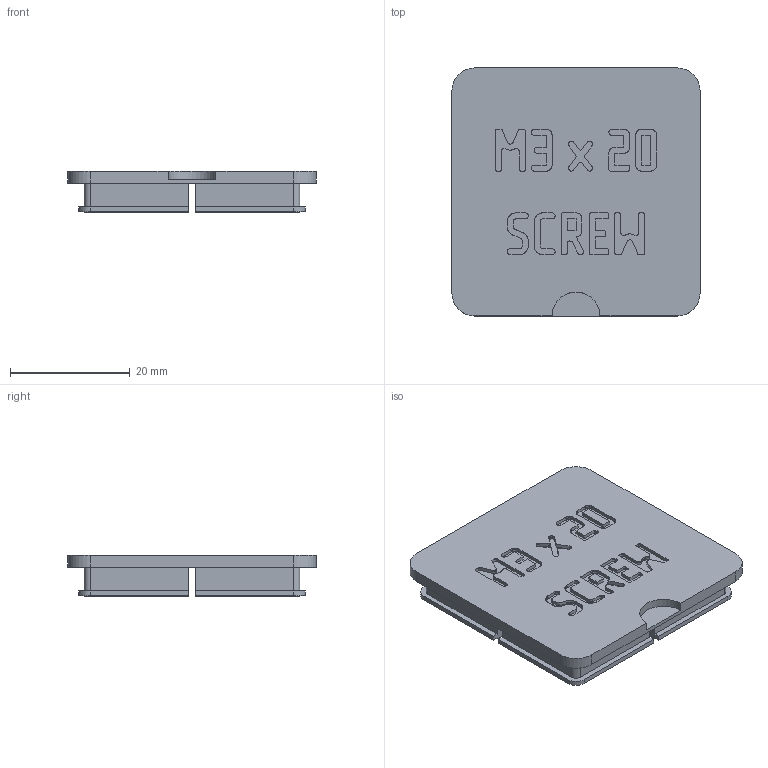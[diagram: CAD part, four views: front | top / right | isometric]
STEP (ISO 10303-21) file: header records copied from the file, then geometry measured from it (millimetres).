
FILE_DESCRIPTION(('Open CASCADE Model'),'2;1');
FILE_NAME('Open CASCADE Shape Model','2026-11-03T17:09:38',('Author'),( 'Open CASCADE'),'Open CASCADE STEP processor 8.0','build123d', 'Unknown');
FILE_SCHEMA(('AUTOMOTIVE_DESIGN { 1 0 10303 214 1 1 1 1 }'));
Products named in the file (1): COMPOUND
Bounding box: 41.5 x 41.5 x 6.9 mm (x, y, z)
Volume: 4180.8 mm3; surface area: 5550.6 mm2
Topology: 1 solids, 1 shells, 1196 faces, 3543 edges, 2362 vertices
Faces by surface type: plane 1175, cylinder 21
Entity records: 85170 total; most frequent: CARTESIAN_POINT 14544, DIRECTION 12869, LINE 10381, VECTOR 10381, ORIENTED_EDGE 7086, PCURVE 7086, DEFINITIONAL_REPRESENTATION 7086, EDGE_CURVE 3543
